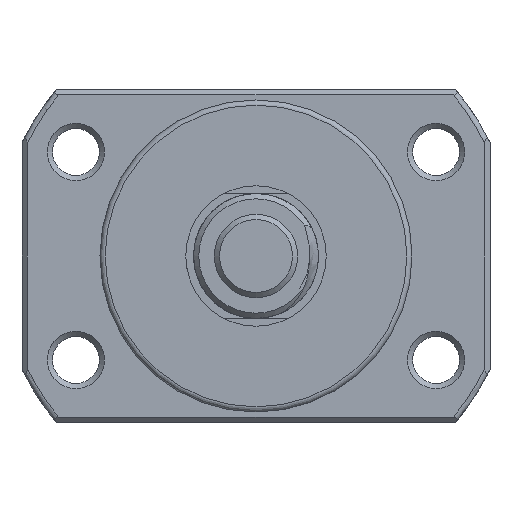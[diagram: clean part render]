
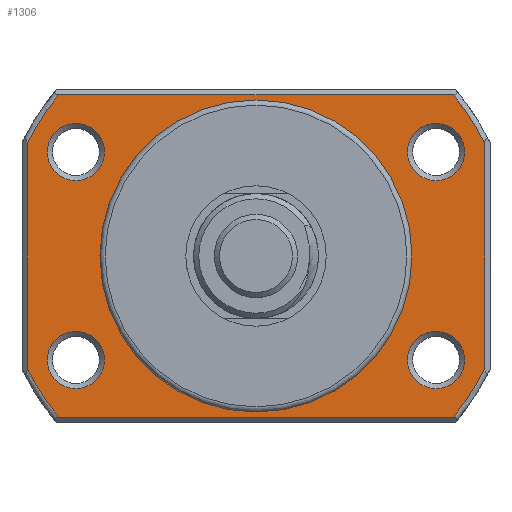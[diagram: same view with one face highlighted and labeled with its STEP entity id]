
A CAD part, left-side view. The second image highlights one B-rep face of the part: STEP entity #1306.
In plain terms, the highlighted planar face has unit normal (-1, 0, 0).
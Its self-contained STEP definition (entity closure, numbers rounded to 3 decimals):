
#26 = EDGE_CURVE ( 'NONE', #12841, #5111, #5910, .T. ) ;
#37 = CIRCLE ( 'NONE', #5379, 24.5 ) ;
#60 = AXIS2_PLACEMENT_3D ( 'NONE', #5701, #10226, #403 ) ;
#403 = DIRECTION ( 'NONE',  ( 0., 0., 1. ) ) ;
#429 = CARTESIAN_POINT ( 'NONE',  ( -10.324, 17.321, 10. ) ) ;
#611 = LINE ( 'NONE', #5842, #9172 ) ;
#1053 = VECTOR ( 'NONE', #8000, 1000. ) ;
#1111 = CARTESIAN_POINT ( 'NONE',  ( -10.324, 0., 0. ) ) ;
#1151 = AXIS2_PLACEMENT_3D ( 'NONE', #3621, #10809, #1265 ) ;
#1265 = DIRECTION ( 'NONE',  ( 0., 0., 1. ) ) ;
#1306 = ADVANCED_FACE ( 'NONE', ( #8496, #7514, #12671, #7578, #4370, #11362 ), #2147, .T. ) ;
#1318 = DIRECTION ( 'NONE',  ( 1., 0., 0. ) ) ;
#1379 = EDGE_CURVE ( 'NONE', #4310, #13563, #3322, .T. ) ;
#1464 = VERTEX_POINT ( 'NONE', #2282 ) ;
#1479 = ORIENTED_EDGE ( 'NONE', *, *, #1652, .F. ) ;
#1540 = CARTESIAN_POINT ( 'NONE',  ( -10.324, 0., 15. ) ) ;
#1551 = EDGE_CURVE ( 'NONE', #1464, #4310, #2376, .T. ) ;
#1652 = EDGE_CURVE ( 'NONE', #13449, #13449, #13735, .T. ) ;
#1880 = VERTEX_POINT ( 'NONE', #10453 ) ;
#1952 = VERTEX_POINT ( 'NONE', #6207 ) ;
#2147 = PLANE ( 'NONE',  #3719 ) ;
#2282 = CARTESIAN_POINT ( 'NONE',  ( -10.324, -18.974, -15.5 ) ) ;
#2351 = DIRECTION ( 'NONE',  ( -1., 0., 0. ) ) ;
#2376 = CIRCLE ( 'NONE', #5947, 24.5 ) ;
#2448 = DIRECTION ( 'NONE',  ( 1., 0., 0. ) ) ;
#2652 = EDGE_CURVE ( 'NONE', #13563, #12841, #4526, .T. ) ;
#2732 = EDGE_CURVE ( 'NONE', #8311, #1464, #6296, .T. ) ;
#2785 = EDGE_LOOP ( 'NONE', ( #1479 ) ) ;
#3054 = CARTESIAN_POINT ( 'NONE',  ( -10.324, 18.974, -15.5 ) ) ;
#3196 = DIRECTION ( 'NONE',  ( -1., 0., 0. ) ) ;
#3322 = LINE ( 'NONE', #12875, #6618 ) ;
#3354 = ORIENTED_EDGE ( 'NONE', *, *, #12701, .T. ) ;
#3472 = DIRECTION ( 'NONE',  ( -1., 0., 0. ) ) ;
#3530 = ORIENTED_EDGE ( 'NONE', *, *, #2732, .T. ) ;
#3543 = ORIENTED_EDGE ( 'NONE', *, *, #11775, .T. ) ;
#3621 = CARTESIAN_POINT ( 'NONE',  ( -10.324, -17.321, 10. ) ) ;
#3665 = CARTESIAN_POINT ( 'NONE',  ( -10.324, 0., 0. ) ) ;
#3719 = AXIS2_PLACEMENT_3D ( 'NONE', #6404, #5356, #10653 ) ;
#3877 = CARTESIAN_POINT ( 'NONE',  ( -10.324, 15., 15.5 ) ) ;
#3891 = VERTEX_POINT ( 'NONE', #8823 ) ;
#4131 = ORIENTED_EDGE ( 'NONE', *, *, #8719, .T. ) ;
#4176 = CARTESIAN_POINT ( 'NONE',  ( -10.324, 17.321, -7.25 ) ) ;
#4252 = VERTEX_POINT ( 'NONE', #5045 ) ;
#4310 = VERTEX_POINT ( 'NONE', #7066 ) ;
#4370 = FACE_OUTER_BOUND ( 'NONE', #8295, .T. ) ;
#4526 = CIRCLE ( 'NONE', #10541, 24.5 ) ;
#4543 = DIRECTION ( 'NONE',  ( 0., 0., 1. ) ) ;
#5045 = CARTESIAN_POINT ( 'NONE',  ( -10.324, 22., 10.782 ) ) ;
#5111 = VERTEX_POINT ( 'NONE', #11153 ) ;
#5165 = CIRCLE ( 'NONE', #6500, 2.75 ) ;
#5231 = VERTEX_POINT ( 'NONE', #4176 ) ;
#5356 = DIRECTION ( 'NONE',  ( -1., 0., 0. ) ) ;
#5379 = AXIS2_PLACEMENT_3D ( 'NONE', #1111, #3196, #10795 ) ;
#5510 = CARTESIAN_POINT ( 'NONE',  ( -10.324, 15., -15.5 ) ) ;
#5701 = CARTESIAN_POINT ( 'NONE',  ( -10.324, 0., 0. ) ) ;
#5834 = DIRECTION ( 'NONE',  ( -1., 0., 0. ) ) ;
#5842 = CARTESIAN_POINT ( 'NONE',  ( -10.324, 22., 0. ) ) ;
#5865 = VECTOR ( 'NONE', #11978, 1000. ) ;
#5910 = LINE ( 'NONE', #3877, #1053 ) ;
#5947 = AXIS2_PLACEMENT_3D ( 'NONE', #3665, #2351, #7785 ) ;
#6207 = CARTESIAN_POINT ( 'NONE',  ( -10.324, 17.321, 12.75 ) ) ;
#6287 = EDGE_LOOP ( 'NONE', ( #6503 ) ) ;
#6296 = LINE ( 'NONE', #5510, #5865 ) ;
#6404 = CARTESIAN_POINT ( 'NONE',  ( -10.324, 15., 0. ) ) ;
#6500 = AXIS2_PLACEMENT_3D ( 'NONE', #429, #2448, #4543 ) ;
#6503 = ORIENTED_EDGE ( 'NONE', *, *, #11001, .T. ) ;
#6544 = CARTESIAN_POINT ( 'NONE',  ( -10.324, 17.321, -10. ) ) ;
#6608 = ORIENTED_EDGE ( 'NONE', *, *, #9219, .T. ) ;
#6610 = DIRECTION ( 'NONE',  ( 0., 0., 1. ) ) ;
#6618 = VECTOR ( 'NONE', #12742, 1000. ) ;
#6633 = ORIENTED_EDGE ( 'NONE', *, *, #26, .T. ) ;
#6701 = CIRCLE ( 'NONE', #1151, 2.75 ) ;
#6931 = EDGE_CURVE ( 'NONE', #7183, #7183, #6701, .T. ) ;
#6937 = CARTESIAN_POINT ( 'NONE',  ( -10.324, -18.974, 15.5 ) ) ;
#7066 = CARTESIAN_POINT ( 'NONE',  ( -10.324, -22., -10.782 ) ) ;
#7183 = VERTEX_POINT ( 'NONE', #11566 ) ;
#7244 = ORIENTED_EDGE ( 'NONE', *, *, #6931, .T. ) ;
#7514 = FACE_BOUND ( 'NONE', #7790, .T. ) ;
#7578 = FACE_BOUND ( 'NONE', #6287, .T. ) ;
#7623 = AXIS2_PLACEMENT_3D ( 'NONE', #8626, #9735, #8053 ) ;
#7716 = DIRECTION ( 'NONE',  ( 0., 0., 1. ) ) ;
#7785 = DIRECTION ( 'NONE',  ( 0., 0., 1. ) ) ;
#7790 = EDGE_LOOP ( 'NONE', ( #3354 ) ) ;
#7922 = CARTESIAN_POINT ( 'NONE',  ( -10.324, 0., 0. ) ) ;
#8000 = DIRECTION ( 'NONE',  ( 0., 1., 0. ) ) ;
#8053 = DIRECTION ( 'NONE',  ( 0., 0., 1. ) ) ;
#8295 = EDGE_LOOP ( 'NONE', ( #9894, #6633, #3543, #6608, #4131, #3530, #8501, #13266 ) ) ;
#8311 = VERTEX_POINT ( 'NONE', #3054 ) ;
#8496 = FACE_BOUND ( 'NONE', #10725, .T. ) ;
#8501 = ORIENTED_EDGE ( 'NONE', *, *, #1551, .T. ) ;
#8514 = CIRCLE ( 'NONE', #7623, 2.75 ) ;
#8626 = CARTESIAN_POINT ( 'NONE',  ( -10.324, -17.321, -10. ) ) ;
#8719 = EDGE_CURVE ( 'NONE', #3891, #8311, #37, .T. ) ;
#8813 = CARTESIAN_POINT ( 'NONE',  ( -10.324, -22., 10.782 ) ) ;
#8823 = CARTESIAN_POINT ( 'NONE',  ( -10.324, 22., -10.782 ) ) ;
#9063 = EDGE_CURVE ( 'NONE', #5231, #5231, #11158, .T. ) ;
#9172 = VECTOR ( 'NONE', #12245, 1000. ) ;
#9219 = EDGE_CURVE ( 'NONE', #4252, #3891, #611, .T. ) ;
#9514 = AXIS2_PLACEMENT_3D ( 'NONE', #7922, #5834, #7716 ) ;
#9628 = CIRCLE ( 'NONE', #60, 24.5 ) ;
#9735 = DIRECTION ( 'NONE',  ( 1., 0., 0. ) ) ;
#9826 = DIRECTION ( 'NONE',  ( 0., 0., 1. ) ) ;
#9894 = ORIENTED_EDGE ( 'NONE', *, *, #2652, .T. ) ;
#10226 = DIRECTION ( 'NONE',  ( -1., 0., 0. ) ) ;
#10279 = AXIS2_PLACEMENT_3D ( 'NONE', #6544, #1318, #6610 ) ;
#10453 = CARTESIAN_POINT ( 'NONE',  ( -10.324, -17.321, -7.25 ) ) ;
#10541 = AXIS2_PLACEMENT_3D ( 'NONE', #10802, #3472, #9826 ) ;
#10637 = ORIENTED_EDGE ( 'NONE', *, *, #9063, .T. ) ;
#10653 = DIRECTION ( 'NONE',  ( 0., 0., 1. ) ) ;
#10725 = EDGE_LOOP ( 'NONE', ( #7244 ) ) ;
#10795 = DIRECTION ( 'NONE',  ( 0., 0., 1. ) ) ;
#10802 = CARTESIAN_POINT ( 'NONE',  ( -10.324, 0., 0. ) ) ;
#10809 = DIRECTION ( 'NONE',  ( 1., 0., 0. ) ) ;
#11001 = EDGE_CURVE ( 'NONE', #1952, #1952, #5165, .T. ) ;
#11153 = CARTESIAN_POINT ( 'NONE',  ( -10.324, 18.974, 15.5 ) ) ;
#11158 = CIRCLE ( 'NONE', #10279, 2.75 ) ;
#11362 = FACE_BOUND ( 'NONE', #2785, .T. ) ;
#11566 = CARTESIAN_POINT ( 'NONE',  ( -10.324, -17.321, 12.75 ) ) ;
#11699 = EDGE_LOOP ( 'NONE', ( #10637 ) ) ;
#11775 = EDGE_CURVE ( 'NONE', #5111, #4252, #9628, .T. ) ;
#11978 = DIRECTION ( 'NONE',  ( 0., -1., 0. ) ) ;
#12245 = DIRECTION ( 'NONE',  ( 0., 0., -1. ) ) ;
#12671 = FACE_BOUND ( 'NONE', #11699, .T. ) ;
#12701 = EDGE_CURVE ( 'NONE', #1880, #1880, #8514, .T. ) ;
#12742 = DIRECTION ( 'NONE',  ( 0., 0., 1. ) ) ;
#12841 = VERTEX_POINT ( 'NONE', #6937 ) ;
#12875 = CARTESIAN_POINT ( 'NONE',  ( -10.324, -22., 0. ) ) ;
#13266 = ORIENTED_EDGE ( 'NONE', *, *, #1379, .T. ) ;
#13449 = VERTEX_POINT ( 'NONE', #1540 ) ;
#13563 = VERTEX_POINT ( 'NONE', #8813 ) ;
#13735 = CIRCLE ( 'NONE', #9514, 15. ) ;
